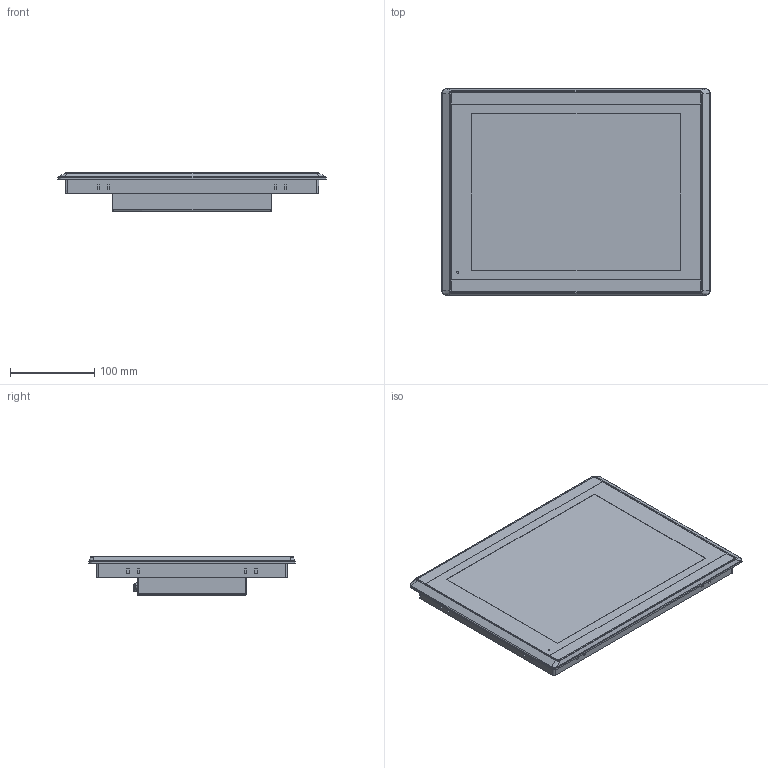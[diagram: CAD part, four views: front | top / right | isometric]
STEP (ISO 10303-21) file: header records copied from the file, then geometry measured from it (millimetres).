
FILE_DESCRIPTION((''),'2;1');
FILE_NAME('FPM-1201D-20241226','2025-08-01T19:23:00',('anthony'),(''),'CREO PARAMETRIC BY PTC INC, 2024063','CREO PARAMETRIC BY PTC INC, 2024063','');
FILE_SCHEMA(('CONFIG_CONTROL_DESIGN','SHAPE_APPEARANCE_LAYERS_GROUPS'));
Products named in the file (1): FPM-1201D-20241226
Bounding box: 318.8 x 245 x 45.5 mm (x, y, z)
Volume: 7859.9 mm3; surface area: 291364.9 mm2
Topology: 27 solids, 36 shells, 2943 faces, 8045 edges, 5297 vertices
Faces by surface type: plane 1814, cylinder 805, cone 152, torus 70, bspline 50, extrusion 48, sphere 4
Entity records: 101726 total; most frequent: CARTESIAN_POINT 23680, ORIENTED_EDGE 15948, DIRECTION 14658, EDGE_CURVE 8040, VECTOR 5654, LINE 5606, VERTEX_POINT 5297, AXIS2_PLACEMENT_3D 4502
